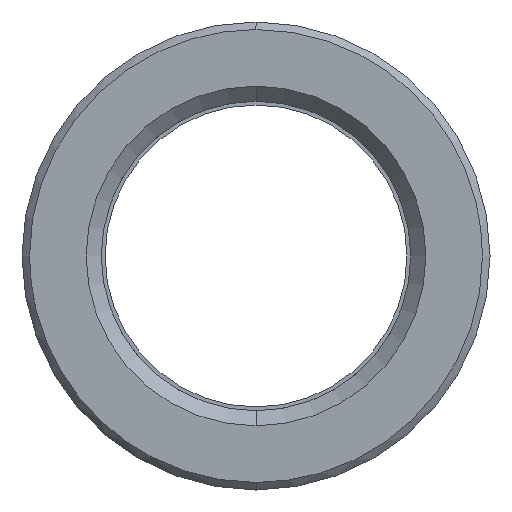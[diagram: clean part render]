
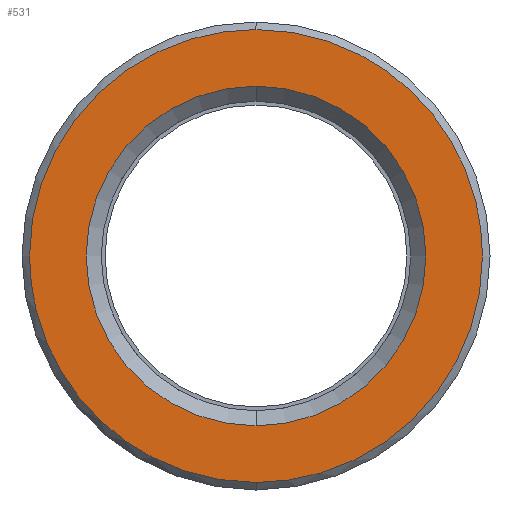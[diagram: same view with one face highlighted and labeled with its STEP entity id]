
A CAD part, left-side view. The second image highlights one B-rep face of the part: STEP entity #531.
In plain terms, the highlighted planar face has unit normal (-1, 0, 0).
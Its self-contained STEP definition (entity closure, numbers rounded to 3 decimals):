
#311=CARTESIAN_POINT('Axis2P3D Location',(0.,0.,0.)) ;
#315=CARTESIAN_POINT('Vertex',(0.,11.25,0.)) ;
#317=CARTESIAN_POINT('Vertex',(0.,0.,11.25)) ;
#320=CARTESIAN_POINT('Axis2P3D Location',(0.,0.,0.)) ;
#324=CARTESIAN_POINT('Vertex',(0.,0.,-11.25)) ;
#351=CARTESIAN_POINT('Axis2P3D Location',(0.,0.,0.)) ;
#355=CARTESIAN_POINT('Vertex',(0.,-11.25,0.)) ;
#358=CARTESIAN_POINT('Axis2P3D Location',(0.,0.,0.)) ;
#438=CARTESIAN_POINT('Axis2P3D Location',(0.,15.,0.)) ;
#444=CARTESIAN_POINT('Control Point',(0.,0.,-15.)) ;
#445=CARTESIAN_POINT('Control Point',(0.,1.359,-15.)) ;
#446=CARTESIAN_POINT('Control Point',(0.,2.718,-14.846)) ;
#447=CARTESIAN_POINT('Control Point',(0.,4.054,-14.538)) ;
#448=CARTESIAN_POINT('Control Point',(0.,6.784,-13.572)) ;
#449=CARTESIAN_POINT('Control Point',(0.,9.211,-11.985)) ;
#450=CARTESIAN_POINT('Control Point',(0.,10.379,-10.99)) ;
#451=CARTESIAN_POINT('Control Point',(0.,12.437,-8.725)) ;
#452=CARTESIAN_POINT('Control Point',(0.,13.866,-6.019)) ;
#453=CARTESIAN_POINT('Control Point',(0.,14.405,-4.583)) ;
#454=CARTESIAN_POINT('Control Point',(0.,14.829,-2.782)) ;
#455=CARTESIAN_POINT('Control Point',(0.,14.975,-0.952)) ;
#456=CARTESIAN_POINT('Control Point',(0.,14.992,-0.635)) ;
#457=CARTESIAN_POINT('Control Point',(0.,15.,-0.317)) ;
#458=CARTESIAN_POINT('Control Point',(0.,15.,0.)) ;
#459=CARTESIAN_POINT('Vertex',(0.,0.,-15.)) ;
#461=CARTESIAN_POINT('Vertex',(0.,15.,0.)) ;
#465=CARTESIAN_POINT('Control Point',(0.,-15.,0.)) ;
#466=CARTESIAN_POINT('Control Point',(0.,-15.,-1.518)) ;
#467=CARTESIAN_POINT('Control Point',(0.,-14.808,-3.036)) ;
#468=CARTESIAN_POINT('Control Point',(0.,-14.424,-4.521)) ;
#469=CARTESIAN_POINT('Control Point',(0.,-13.289,-7.363)) ;
#470=CARTESIAN_POINT('Control Point',(0.,-11.481,-9.832)) ;
#471=CARTESIAN_POINT('Control Point',(0.,-10.425,-10.945)) ;
#472=CARTESIAN_POINT('Control Point',(0.,-8.055,-12.881)) ;
#473=CARTESIAN_POINT('Control Point',(0.,-5.278,-14.165)) ;
#474=CARTESIAN_POINT('Control Point',(0.,-3.815,-14.627)) ;
#475=CARTESIAN_POINT('Control Point',(0.,-2.152,-14.927)) ;
#476=CARTESIAN_POINT('Control Point',(0.,-0.476,-14.994)) ;
#477=CARTESIAN_POINT('Control Point',(0.,-0.317,-14.998)) ;
#478=CARTESIAN_POINT('Control Point',(0.,-0.159,-15.)) ;
#479=CARTESIAN_POINT('Control Point',(0.,0.,-15.)) ;
#480=CARTESIAN_POINT('Vertex',(0.,-15.,0.)) ;
#484=CARTESIAN_POINT('Control Point',(0.,0.,15.)) ;
#485=CARTESIAN_POINT('Control Point',(0.,-1.359,15.)) ;
#486=CARTESIAN_POINT('Control Point',(0.,-2.718,14.846)) ;
#487=CARTESIAN_POINT('Control Point',(0.,-4.054,14.538)) ;
#488=CARTESIAN_POINT('Control Point',(0.,-6.784,13.572)) ;
#489=CARTESIAN_POINT('Control Point',(0.,-9.211,11.985)) ;
#490=CARTESIAN_POINT('Control Point',(0.,-10.379,10.99)) ;
#491=CARTESIAN_POINT('Control Point',(0.,-12.437,8.725)) ;
#492=CARTESIAN_POINT('Control Point',(0.,-13.866,6.019)) ;
#493=CARTESIAN_POINT('Control Point',(0.,-14.405,4.583)) ;
#494=CARTESIAN_POINT('Control Point',(0.,-14.829,2.782)) ;
#495=CARTESIAN_POINT('Control Point',(0.,-14.975,0.952)) ;
#496=CARTESIAN_POINT('Control Point',(0.,-14.992,0.635)) ;
#497=CARTESIAN_POINT('Control Point',(0.,-15.,0.317)) ;
#498=CARTESIAN_POINT('Control Point',(0.,-15.,0.)) ;
#499=CARTESIAN_POINT('Vertex',(0.,0.,15.)) ;
#503=CARTESIAN_POINT('Control Point',(0.,15.,0.)) ;
#504=CARTESIAN_POINT('Control Point',(0.,15.,1.518)) ;
#505=CARTESIAN_POINT('Control Point',(0.,14.808,3.036)) ;
#506=CARTESIAN_POINT('Control Point',(0.,14.424,4.521)) ;
#507=CARTESIAN_POINT('Control Point',(0.,13.289,7.363)) ;
#508=CARTESIAN_POINT('Control Point',(0.,11.481,9.832)) ;
#509=CARTESIAN_POINT('Control Point',(0.,10.425,10.945)) ;
#510=CARTESIAN_POINT('Control Point',(0.,8.055,12.881)) ;
#511=CARTESIAN_POINT('Control Point',(0.,5.278,14.165)) ;
#512=CARTESIAN_POINT('Control Point',(0.,3.815,14.627)) ;
#513=CARTESIAN_POINT('Control Point',(0.,2.152,14.927)) ;
#514=CARTESIAN_POINT('Control Point',(0.,0.476,14.994)) ;
#515=CARTESIAN_POINT('Control Point',(0.,0.317,14.998)) ;
#516=CARTESIAN_POINT('Control Point',(0.,0.159,15.)) ;
#517=CARTESIAN_POINT('Control Point',(0.,0.,15.)) ;
#312=DIRECTION('Axis2P3D Direction',(-1.,0.,0.)) ;
#321=DIRECTION('Axis2P3D Direction',(-1.,0.,0.)) ;
#352=DIRECTION('Axis2P3D Direction',(-1.,0.,0.)) ;
#359=DIRECTION('Axis2P3D Direction',(-1.,0.,0.)) ;
#439=DIRECTION('Axis2P3D Direction',(-1.,0.,0.)) ;
#440=DIRECTION('Axis2P3D XDirection',(0.,0.,1.)) ;
#313=AXIS2_PLACEMENT_3D('Circle Axis2P3D',#311,#312,$) ;
#322=AXIS2_PLACEMENT_3D('Circle Axis2P3D',#320,#321,$) ;
#353=AXIS2_PLACEMENT_3D('Circle Axis2P3D',#351,#352,$) ;
#360=AXIS2_PLACEMENT_3D('Circle Axis2P3D',#358,#359,$) ;
#441=AXIS2_PLACEMENT_3D('Plane Axis2P3D',#438,#439,#440) ;
#520=ORIENTED_EDGE('',*,*,#463,.F.) ;
#521=ORIENTED_EDGE('',*,*,#482,.F.) ;
#522=ORIENTED_EDGE('',*,*,#501,.F.) ;
#523=ORIENTED_EDGE('',*,*,#518,.F.) ;
#526=ORIENTED_EDGE('',*,*,#319,.T.) ;
#527=ORIENTED_EDGE('',*,*,#362,.T.) ;
#528=ORIENTED_EDGE('',*,*,#357,.T.) ;
#529=ORIENTED_EDGE('',*,*,#326,.T.) ;
#530=FACE_BOUND('',#525,.T.) ;
#531=ADVANCED_FACE('553-20X86',(#524,#530),#442,.T.) ;
#443=B_SPLINE_CURVE_WITH_KNOTS('',5,(#444,#445,#446,#447,#448,#449,#450,#451,#452,#453,#454,#455,#456,#457,#458),.UNSPECIFIED.,.F.,.U.,(6,3,3,3,6),(33.321,42.932,53.665,64.398,66.642),.UNSPECIFIED.) ;
#464=B_SPLINE_CURVE_WITH_KNOTS('',5,(#465,#466,#467,#468,#469,#470,#471,#472,#473,#474,#475,#476,#477,#478,#479),.UNSPECIFIED.,.F.,.U.,(6,3,3,3,6),(0.,10.733,21.466,32.199,33.321),.UNSPECIFIED.) ;
#483=B_SPLINE_CURVE_WITH_KNOTS('',5,(#484,#485,#486,#487,#488,#489,#490,#491,#492,#493,#494,#495,#496,#497,#498),.UNSPECIFIED.,.F.,.U.,(6,3,3,3,6),(33.321,42.932,53.665,64.398,66.642),.UNSPECIFIED.) ;
#502=B_SPLINE_CURVE_WITH_KNOTS('',5,(#503,#504,#505,#506,#507,#508,#509,#510,#511,#512,#513,#514,#515,#516,#517),.UNSPECIFIED.,.F.,.U.,(6,3,3,3,6),(0.,10.733,21.466,32.199,33.321),.UNSPECIFIED.) ;
#314=CIRCLE('generated circle',#313,11.25) ;
#323=CIRCLE('generated circle',#322,11.25) ;
#354=CIRCLE('generated circle',#353,11.25) ;
#361=CIRCLE('generated circle',#360,11.25) ;
#319=EDGE_CURVE('',#316,#318,#314,.F.) ;
#326=EDGE_CURVE('',#325,#316,#323,.F.) ;
#357=EDGE_CURVE('',#356,#325,#354,.F.) ;
#362=EDGE_CURVE('',#318,#356,#361,.F.) ;
#463=EDGE_CURVE('',#460,#462,#443,.T.) ;
#482=EDGE_CURVE('',#481,#460,#464,.T.) ;
#501=EDGE_CURVE('',#500,#481,#483,.T.) ;
#518=EDGE_CURVE('',#462,#500,#502,.T.) ;
#519=EDGE_LOOP('',(#520,#521,#522,#523)) ;
#525=EDGE_LOOP('',(#526,#527,#528,#529)) ;
#524=FACE_OUTER_BOUND('',#519,.T.) ;
#442=PLANE('Plane',#441) ;
#316=VERTEX_POINT('',#315) ;
#318=VERTEX_POINT('',#317) ;
#325=VERTEX_POINT('',#324) ;
#356=VERTEX_POINT('',#355) ;
#460=VERTEX_POINT('',#459) ;
#462=VERTEX_POINT('',#461) ;
#481=VERTEX_POINT('',#480) ;
#500=VERTEX_POINT('',#499) ;
